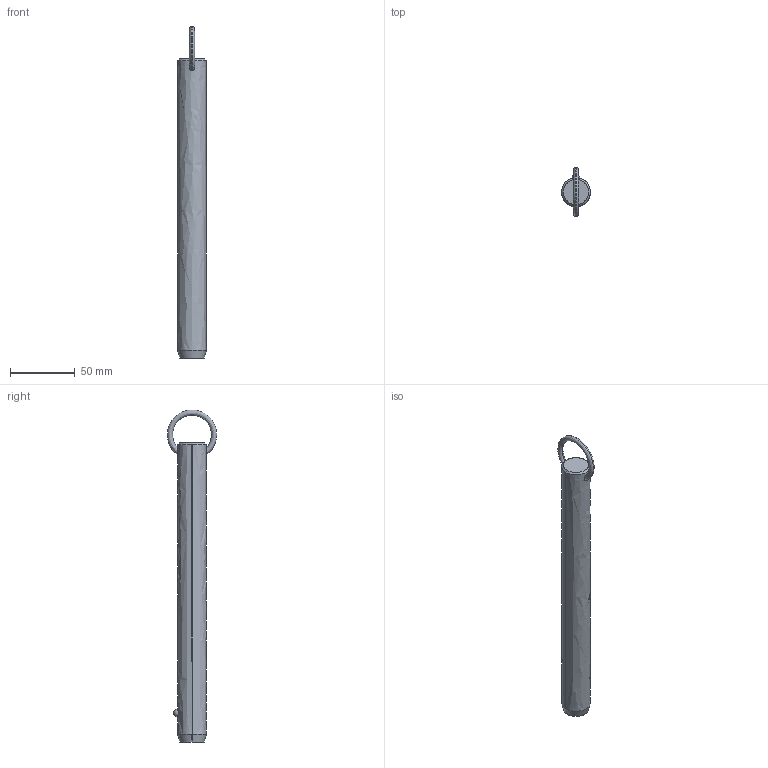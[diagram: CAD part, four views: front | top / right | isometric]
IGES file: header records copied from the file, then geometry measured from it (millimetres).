
Start section: SolidWorks IGES file using analytic representation for surfaces
Global section: file name: C:\Users\liam_\OneDrive\Documents\WORK\Work for WixRoyd\Job Files\J-00019 - Matt Davis CAD Checking\04. CAD Drawings\automotion20190605\P1250.2_v2\P1250.2_v2_20190729_IGES\P1250.087-760.igs; native system: SolidWorks 2017; preprocessor: SolidWorks 2017; author: liam_; date: 190730.173136; units: millimetre
Bounding box: 22.2 x 38.1 x 256.48 mm (x, y, z)
Surface area: 17761.4 mm2 (no closed solid volume)
Topology: 0 solids, 0 shells, 12 faces, 302 edges, 300 vertices
Faces by surface type: revolution 8, bspline 4
